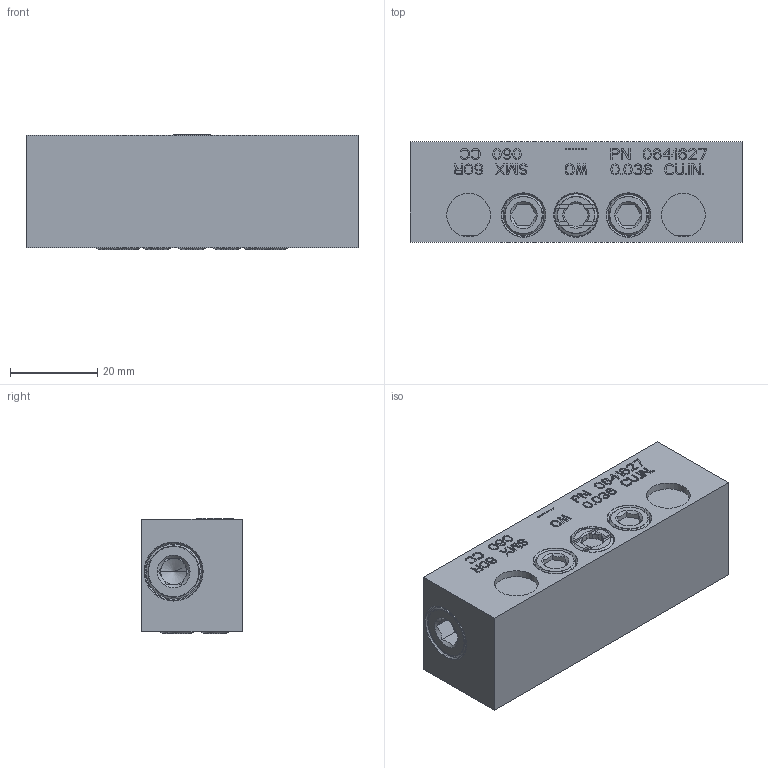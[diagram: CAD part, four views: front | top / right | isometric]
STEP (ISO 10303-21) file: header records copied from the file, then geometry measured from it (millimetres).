
FILE_DESCRIPTION((''),'2;1');
FILE_NAME('0641627_SMX_60R','2023-07-21T12:25:10',('pietro.masciave'),(''),'CREO PARAMETRIC BY PTC INC, 2022281','CREO PARAMETRIC BY PTC INC, 2022281','');
FILE_SCHEMA(('CONFIG_CONTROL_DESIGN'));
Length unit declared in the file: millimetre
Products named in the file (1): 0641627_SMX_60R
Bounding box: 76 x 23 x 26.33 mm (x, y, z)
Volume: 43966.7 mm3; surface area: 12630.9 mm2
Topology: 1 solids, 14 shells, 1419 faces, 3938 edges, 2617 vertices
Faces by surface type: plane 1245, cylinder 108, cone 44, torus 22
Entity records: 45704 total; most frequent: CARTESIAN_POINT 9102, ORIENTED_EDGE 7828, DIRECTION 7065, EDGE_CURVE 3934, VECTOR 3505, LINE 3505, VERTEX_POINT 2617, AXIS2_PLACEMENT_3D 1780
